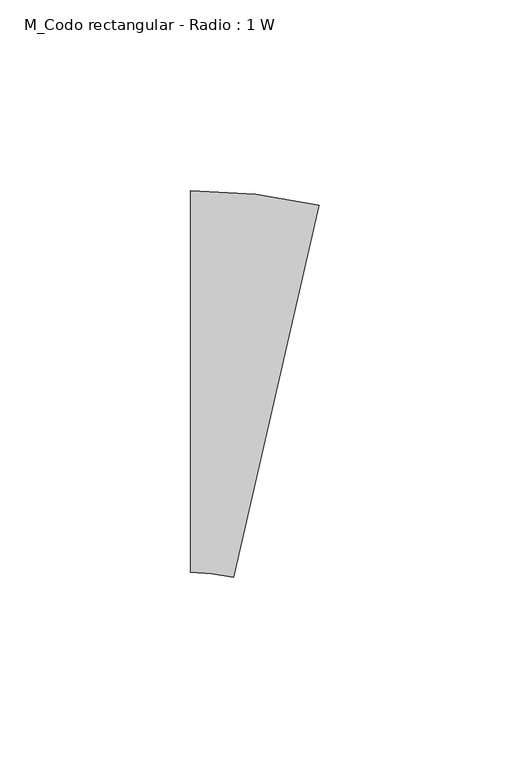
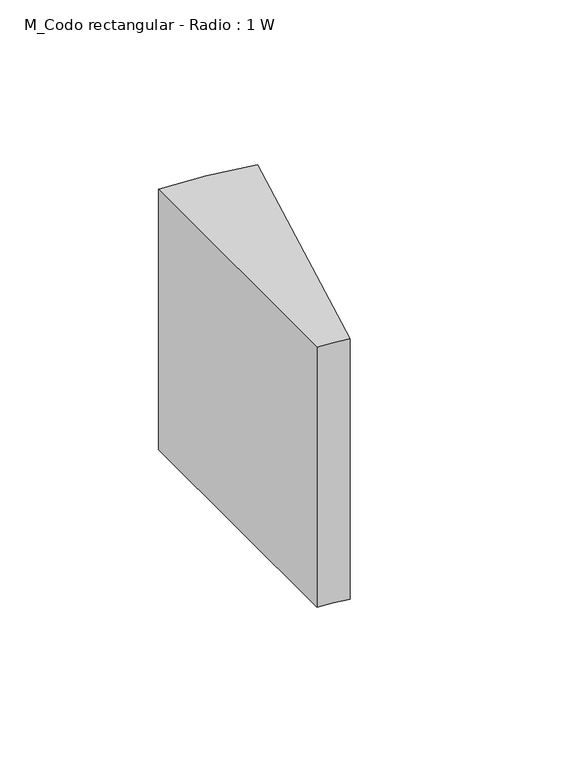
"""IFC4 building model written with IfcOpenShell, lengths in millimetres: duct fitting geometry, M_Codo rectangular - Radio : 1 W."""

from ifc_helpers import new_model, si_unit, point, frame, frame_2d, origin, place, context, project, spatial, polyline, circle_curve, trimmed, segment, composite_curve, outline, extrude, source, transform, mapped, element, save


def m_codo_rectangular_radio_1_w_064f963e(model_context):
    return source(origin(), model_context, "Body", "SweptSolid", [
        extrude(outline(composite_curve([segment(polyline([(22.3490973, 46.1555097), (-0.1460081, -51.2814968)]), True, "CONTINUOUS"), segment(trimmed(circle_curve(frame_2d((-11.3935608, -100.0)), 50.0), [point((-0.1460081, -51.2814968))], [point((-11.3935608, -50.0))], True, "CARTESIAN"), True, "CONTINUOUS"), segment(polyline([(-11.3935608, -50.0), (-11.3935608, 50.0)]), True, "CONTINUOUS"), segment(trimmed(circle_curve(frame_2d((-11.3935608, -100.0)), 150.0), [point((-11.3935608, 50.0))], [point((22.3490973, 46.1555097))], False, "CARTESIAN"), True, "CONTINUOUS")], self_intersect=False)), frame((0.0, 0.0, -50.0), z_axis=(0.0, 0.0, 1.0), x_axis=(1.0, 0.0, 0.0)), (0.0, 0.0, 1.0), 100.0),
    ])


if __name__ == "__main__":
    model = new_model("IFC4")
    model_context = context("Model", 3, world=origin())
    ifc_project = project(units=[si_unit("LENGTHUNIT", "METRE", prefix="MILLI")], contexts=[model_context])
    site = spatial("IfcSite", under=ifc_project)
    building = spatial("IfcBuilding", under=site)
    placement = place(None, origin())
    m_codo_rectangular_radio_1_w_shape = m_codo_rectangular_radio_1_w_064f963e(model_context)
    element("IfcDuctFitting", 1, ObjectType="M_Codo rectangular - Radio : 1 W", at=placement, inside=building, context=model_context, shape_type="MappedRepresentation", body=[
        mapped(m_codo_rectangular_radio_1_w_shape, transform((0.0, 0.0, 0.0), x_axis=(1.0, 0.0, 0.0), y_axis=(0.0, 1.0, 0.0), z_axis=(0.0, 0.0, 1.0))),
    ])
    save(model, "model.ifc")
